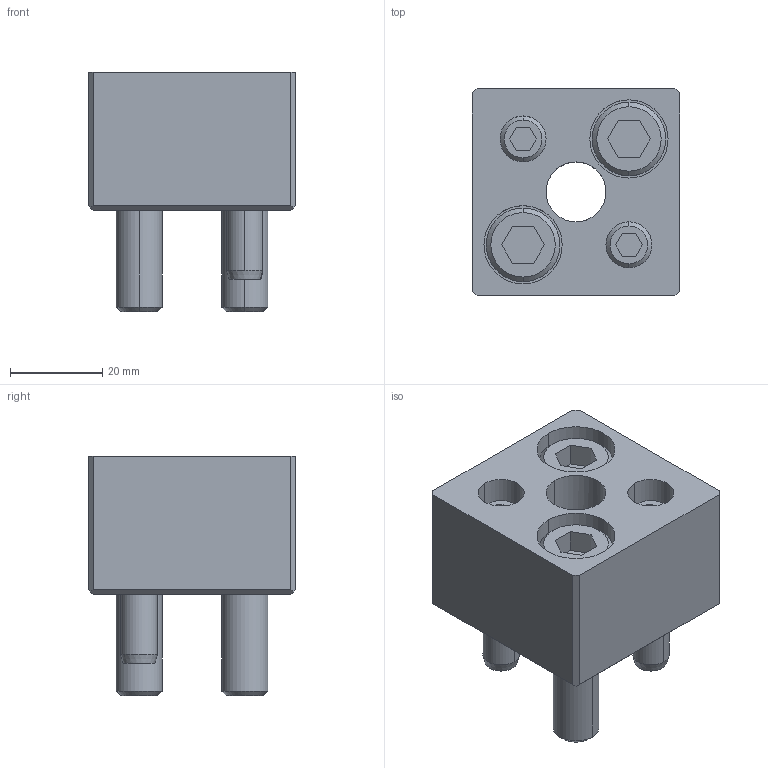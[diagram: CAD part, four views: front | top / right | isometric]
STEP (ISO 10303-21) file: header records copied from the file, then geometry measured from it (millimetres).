
FILE_DESCRIPTION(/* description */ (''),/* implementation_level */ '2;1');
FILE_NAME(/* name */ '3d_mpdr13_04591_r00.stp',/* time_stamp */ '2011-01-10T14:13:29+09:00',/* author */ ('MISUMI'),/* organization */ (''),/* preprocessor_version */ 'ST-DEVELOPER v11',/* originating_system */ 'UGS - NX 5.0',/* authorisation */ '');
FILE_SCHEMA (('CONFIG_CONTROL_DESIGN'));
Length unit declared in the file: millimetre
Products named in the file (1): 3d_mpdr13_04591_r00
Bounding box: 45 x 45 x 52 mm (x, y, z)
Volume: 57069.5 mm3; surface area: 21425.3 mm2
Topology: 7 solids, 7 shells, 139 faces, 310 edges, 199 vertices
Faces by surface type: plane 68, cylinder 45, cone 26
Entity records: 3984 total; most frequent: DIRECTION 700, CARTESIAN_POINT 696, ORIENTED_EDGE 620, EDGE_CURVE 310, AXIS2_PLACEMENT_3D 257, VERTEX_POINT 199, LINE 186, VECTOR 186
